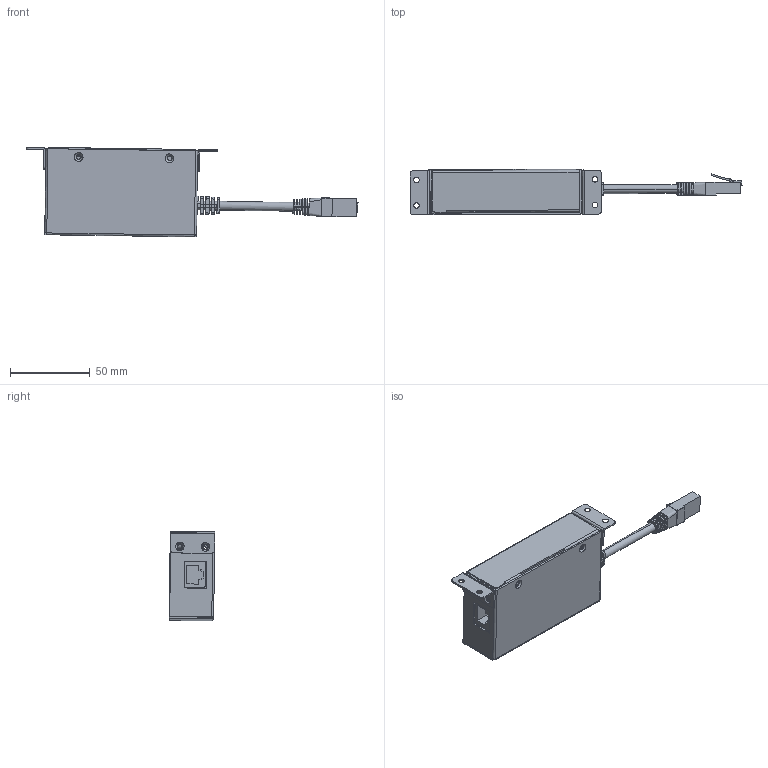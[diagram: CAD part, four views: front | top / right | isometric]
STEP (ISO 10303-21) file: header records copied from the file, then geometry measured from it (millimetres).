
FILE_DESCRIPTION (( 'STEP AP203' ), '1' );
FILE_NAME ('npdh.STEP', '2019-10-07T20:03:32', ( '' ), ( '' ), 'SwSTEP 2.0', 'SolidWorks 2016', '' );
FILE_SCHEMA (( 'CONFIG_CONTROL_DESIGN' ));
Length unit declared in the file: millimetre
Products named in the file (1): npdh
Bounding box: 208.17 x 28.66 x 56.31 mm (x, y, z)
Volume: 33108.6 mm3; surface area: 54910.7 mm2
Topology: 13 solids, 13 shells, 521 faces, 1355 edges, 893 vertices
Faces by surface type: plane 279, cylinder 184, bspline 34, cone 24
Entity records: 27226 total; most frequent: CARTESIAN_POINT 14427, ORIENTED_EDGE 2710, DIRECTION 2525, EDGE_CURVE 1355, VERTEX_POINT 893, AXIS2_PLACEMENT_3D 851, VECTOR 823, LINE 823
